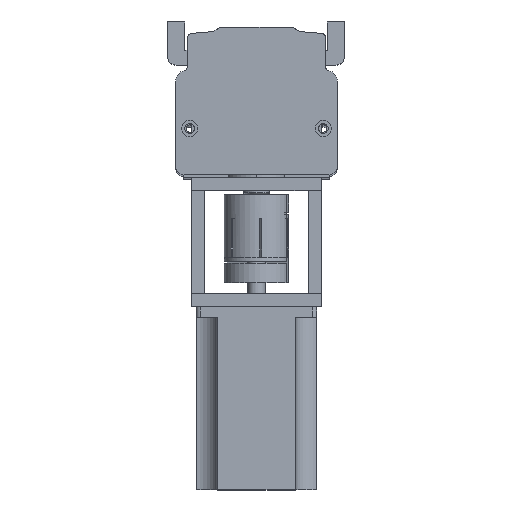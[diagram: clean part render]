
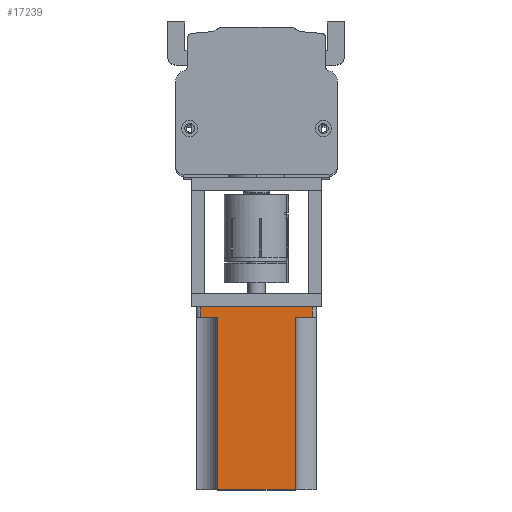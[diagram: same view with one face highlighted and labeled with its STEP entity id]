
A CAD part, top view. The second image highlights one B-rep face of the part: STEP entity #17239.
In plain terms, the highlighted planar face has unit normal (0, 0, 1) as drawn and (0, -1, 0) by its records, which use the part's own axes.
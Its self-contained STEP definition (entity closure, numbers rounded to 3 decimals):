
#1035 = VERTEX_POINT ( 'NONE', #18134 ) ;
#1388 = VECTOR ( 'NONE', #30543, 1000. ) ;
#1405 = VERTEX_POINT ( 'NONE', #23678 ) ;
#1708 = CARTESIAN_POINT ( 'NONE',  ( -2.308, -36.729, 0. ) ) ;
#2023 = DIRECTION ( 'NONE',  ( 0., 0., 1. ) ) ;
#2570 = CARTESIAN_POINT ( 'NONE',  ( -2.308, -36.729, -5. ) ) ;
#2836 = VERTEX_POINT ( 'NONE', #15883 ) ;
#3731 = CARTESIAN_POINT ( 'NONE',  ( -2.308, -36.729, 0. ) ) ;
#3738 = CARTESIAN_POINT ( 'NONE',  ( -10.308, -36.729, 80. ) ) ;
#4289 = VECTOR ( 'NONE', #29695, 1000. ) ;
#6869 = VERTEX_POINT ( 'NONE', #3731 ) ;
#7985 = ORIENTED_EDGE ( 'NONE', *, *, #35751, .F. ) ;
#8236 = EDGE_CURVE ( 'NONE', #18415, #6869, #24051, .T. ) ;
#8262 = DIRECTION ( 'NONE',  ( -1., 0., 0. ) ) ;
#9362 = EDGE_CURVE ( 'NONE', #1405, #33420, #19820, .T. ) ;
#10413 = DIRECTION ( 'NONE',  ( 0., 0., 1. ) ) ;
#10693 = VECTOR ( 'NONE', #8262, 1000. ) ;
#11224 = EDGE_CURVE ( 'NONE', #2836, #22259, #30095, .T. ) ;
#11978 = VECTOR ( 'NONE', #17754, 1000. ) ;
#12197 = LINE ( 'NONE', #20248, #4289 ) ;
#12849 = CARTESIAN_POINT ( 'NONE',  ( -46.308, -36.729, 80. ) ) ;
#13377 = CARTESIAN_POINT ( 'NONE',  ( -2.308, -36.729, -5. ) ) ;
#13576 = ORIENTED_EDGE ( 'NONE', *, *, #8236, .T. ) ;
#13954 = LINE ( 'NONE', #26293, #20883 ) ;
#14667 = DIRECTION ( 'NONE',  ( 0., 0., 1. ) ) ;
#15280 = VECTOR ( 'NONE', #10413, 1000. ) ;
#15724 = ORIENTED_EDGE ( 'NONE', *, *, #19230, .T. ) ;
#15883 = CARTESIAN_POINT ( 'NONE',  ( -46.308, -36.729, 80. ) ) ;
#15940 = ORIENTED_EDGE ( 'NONE', *, *, #11224, .F. ) ;
#16614 = DIRECTION ( 'NONE',  ( -1., 0., 0. ) ) ;
#16674 = PLANE ( 'NONE',  #22201 ) ;
#17031 = ORIENTED_EDGE ( 'NONE', *, *, #30481, .T. ) ;
#17239 = ADVANCED_FACE ( 'NONE', ( #25652 ), #16674, .F. ) ;
#17754 = DIRECTION ( 'NONE',  ( -1., 0., 0. ) ) ;
#18134 = CARTESIAN_POINT ( 'NONE',  ( -10.308, -36.729, 0. ) ) ;
#18415 = VERTEX_POINT ( 'NONE', #2570 ) ;
#19230 = EDGE_CURVE ( 'NONE', #6869, #1035, #20864, .T. ) ;
#19762 = DIRECTION ( 'NONE',  ( 0., 1., 0. ) ) ;
#19820 = LINE ( 'NONE', #35502, #11978 ) ;
#20248 = CARTESIAN_POINT ( 'NONE',  ( -10.308, -36.729, 68. ) ) ;
#20345 = DIRECTION ( 'NONE',  ( 0., 0., -1. ) ) ;
#20609 = CARTESIAN_POINT ( 'NONE',  ( -46.308, -36.729, 68. ) ) ;
#20843 = VERTEX_POINT ( 'NONE', #31089 ) ;
#20864 = LINE ( 'NONE', #1708, #36657 ) ;
#20883 = VECTOR ( 'NONE', #14667, 1000. ) ;
#21322 = LINE ( 'NONE', #28820, #10693 ) ;
#21399 = VECTOR ( 'NONE', #20345, 1000. ) ;
#22201 = AXIS2_PLACEMENT_3D ( 'NONE', #37547, #19762, #2023 ) ;
#22259 = VERTEX_POINT ( 'NONE', #3738 ) ;
#22315 = LINE ( 'NONE', #20609, #21399 ) ;
#22949 = CARTESIAN_POINT ( 'NONE',  ( -54.308, -36.729, 0. ) ) ;
#23491 = EDGE_LOOP ( 'NONE', ( #17031, #37276, #28657, #7985, #13576, #15724, #38058, #15940 ) ) ;
#23678 = CARTESIAN_POINT ( 'NONE',  ( -46.308, -36.729, 0. ) ) ;
#24051 = LINE ( 'NONE', #13377, #15280 ) ;
#25652 = FACE_OUTER_BOUND ( 'NONE', #23491, .T. ) ;
#26293 = CARTESIAN_POINT ( 'NONE',  ( -54.308, -36.729, -5. ) ) ;
#28657 = ORIENTED_EDGE ( 'NONE', *, *, #31974, .F. ) ;
#28820 = CARTESIAN_POINT ( 'NONE',  ( -2.308, -36.729, -5. ) ) ;
#29695 = DIRECTION ( 'NONE',  ( 0., 0., -1. ) ) ;
#29930 = EDGE_CURVE ( 'NONE', #22259, #1035, #12197, .T. ) ;
#30095 = LINE ( 'NONE', #12849, #1388 ) ;
#30481 = EDGE_CURVE ( 'NONE', #2836, #1405, #22315, .T. ) ;
#30543 = DIRECTION ( 'NONE',  ( 1., 0., 0. ) ) ;
#31089 = CARTESIAN_POINT ( 'NONE',  ( -54.308, -36.729, -5. ) ) ;
#31974 = EDGE_CURVE ( 'NONE', #20843, #33420, #13954, .T. ) ;
#33420 = VERTEX_POINT ( 'NONE', #22949 ) ;
#35502 = CARTESIAN_POINT ( 'NONE',  ( -2.308, -36.729, 0. ) ) ;
#35751 = EDGE_CURVE ( 'NONE', #18415, #20843, #21322, .T. ) ;
#36657 = VECTOR ( 'NONE', #16614, 1000. ) ;
#37276 = ORIENTED_EDGE ( 'NONE', *, *, #9362, .T. ) ;
#37547 = CARTESIAN_POINT ( 'NONE',  ( -46.308, -36.729, 68. ) ) ;
#38058 = ORIENTED_EDGE ( 'NONE', *, *, #29930, .F. ) ;
